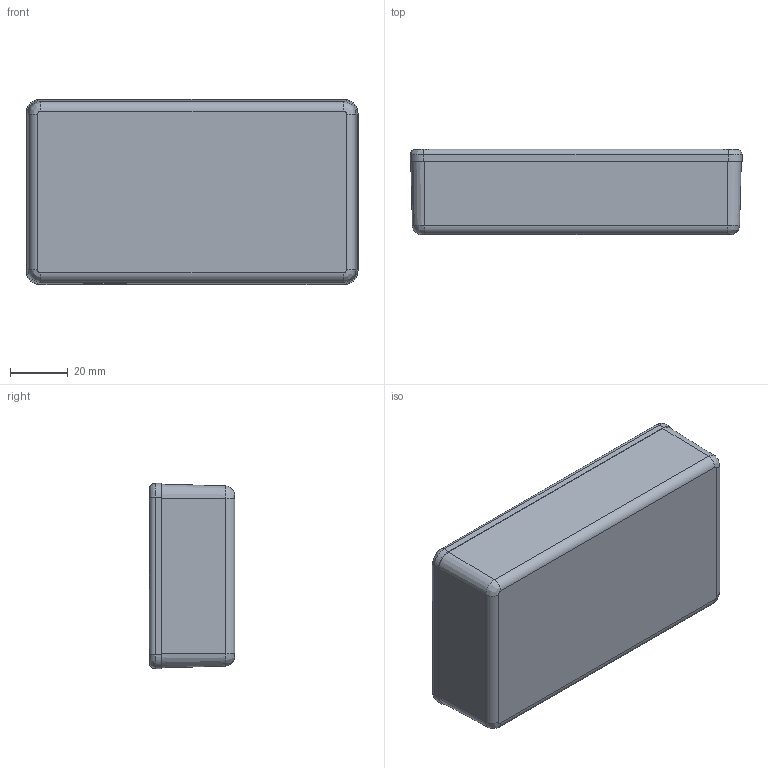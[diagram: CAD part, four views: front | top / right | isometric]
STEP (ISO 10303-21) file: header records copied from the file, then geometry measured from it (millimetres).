
FILE_DESCRIPTION (( 'STEP AP214' ), '1' );
FILE_NAME ('Enclosure.STEP', '2020-05-21T20:18:29', ( '' ), ( '' ), 'SwSTEP 2.0', 'SolidWorks 2019', '' );
FILE_SCHEMA (( 'AUTOMOTIVE_DESIGN' ));
Length unit declared in the file: inch
Products named in the file (4): Deltron Enclosures-deltron-460-0020-sealed-aluminium-enclosure_4 Hole General Purpose Enclosure_B-Box_1.STEP; Enclosure; Deltron Enclosures-deltron-460-0020-sealed-aluminium-enclosure_4 Hole General Purpose Enclosure Lid_Box B Lid_1.STEP; enclosure2.STEP
Assembly tree (3 placements, depth 3):
  Enclosure
    enclosure2.STEP
      Deltron Enclosures-deltron-460-0020-sealed-aluminium-enclosure_4 Hole General Purpose Enclosure_B-Box_1.STEP
      Deltron Enclosures-deltron-460-0020-sealed-aluminium-enclosure_4 Hole General Purpose Enclosure Lid_Box B Lid_1.STEP
Bounding box: 114.8 x 29.5 x 64.1 mm (x, y, z)
Volume: 40829.9 mm3; surface area: 48437.7 mm2
Topology: 2 solids, 2 shells, 533 faces, 1467 edges, 960 vertices
Faces by surface type: plane 276, bspline 145, cone 76, cylinder 36
Entity records: 23269 total; most frequent: CARTESIAN_POINT 6563, ORIENTED_EDGE 2918, DIRECTION 2125, EDGE_CURVE 1459, VERTEX_POINT 960, LINE 915, VECTOR 915, AXIS2_PLACEMENT_3D 605
